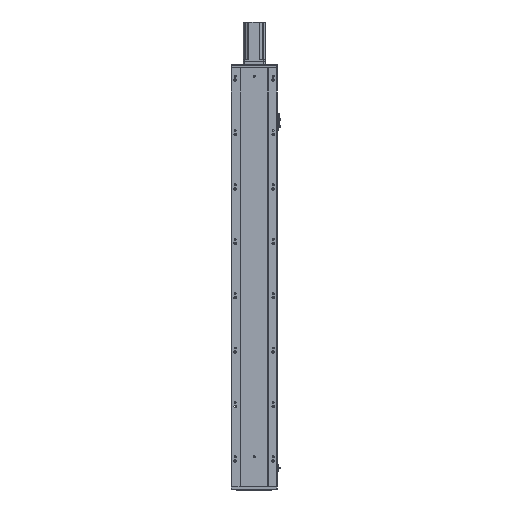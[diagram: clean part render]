
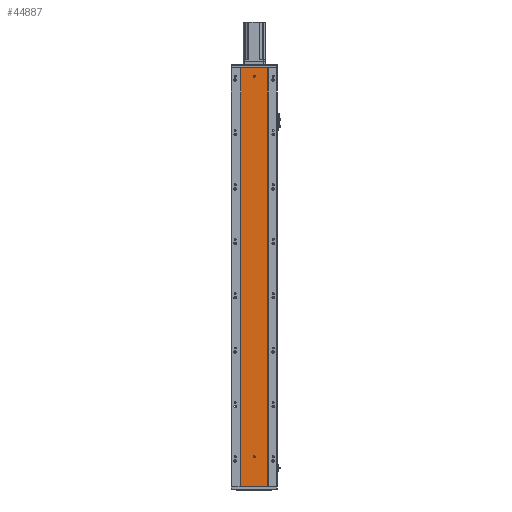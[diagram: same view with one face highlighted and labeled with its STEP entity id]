
A CAD part, front view. The second image highlights one B-rep face of the part: STEP entity #44887.
In plain terms, the highlighted planar face has unit normal (0, -1, 0).
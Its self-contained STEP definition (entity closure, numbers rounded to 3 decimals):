
#5892 = AXIS2_PLACEMENT_3D ( 'NONE', #32855, #32853, #32868 ) ;
#14651 = EDGE_LOOP ( 'NONE', ( #39105, #39159, #39103, #39140 ) ) ;
#14680 = EDGE_LOOP ( 'NONE', ( #39129, #39076 ) ) ;
#14747 = EDGE_LOOP ( 'NONE', ( #39138, #39078 ) ) ;
#18222 = AXIS2_PLACEMENT_3D ( 'NONE', #37425, #37431, #37421 ) ;
#18225 = AXIS2_PLACEMENT_3D ( 'NONE', #37523, #37555, #37527 ) ;
#19605 = CARTESIAN_POINT ( 'NONE',  ( 86.97, 79.476, 1026.667 ) ) ;
#19607 = CARTESIAN_POINT ( 'NONE',  ( 86.97, 79.476, 513.333 ) ) ;
#19609 = DIRECTION ( 'NONE',  ( 1., 0., 0. ) ) ;
#19636 = CARTESIAN_POINT ( 'NONE',  ( 86.97, 79.476, 1540. ) ) ;
#19641 = CARTESIAN_POINT ( 'NONE',  ( 0., 79.476, 1540. ) ) ;
#19643 = CARTESIAN_POINT ( 'NONE',  ( 86.97, 79.476, 0. ) ) ;
#19650 = CARTESIAN_POINT ( 'NONE',  ( 0., 79.476, 0. ) ) ;
#19672 = DIRECTION ( 'NONE',  ( 1., 0., 0. ) ) ;
#26767 = VERTEX_POINT ( 'NONE', #38818 ) ;
#26772 = VERTEX_POINT ( 'NONE', #38777 ) ;
#26852 = VERTEX_POINT ( 'NONE', #38785 ) ;
#27665 = EDGE_CURVE ( 'NONE', #26767, #26772, #47651, .T. ) ;
#27677 = EDGE_CURVE ( 'NONE', #39410, #26852, #47603, .T. ) ;
#30892 = FACE_BOUND ( 'NONE', #14747, .T. ) ;
#30930 = FACE_BOUND ( 'NONE', #14680, .T. ) ;
#30940 = FACE_OUTER_BOUND ( 'NONE', #14651, .T. ) ;
#32853 = DIRECTION ( 'NONE',  ( 0., 1., 0. ) ) ;
#32855 = CARTESIAN_POINT ( 'NONE',  ( 0., 79.476, 1540. ) ) ;
#32868 = DIRECTION ( 'NONE',  ( 0., 0., 1. ) ) ;
#32883 = PLANE ( 'NONE',  #5892 ) ;
#33384 = CIRCLE ( 'NONE', #18222, 4. ) ;
#37421 = DIRECTION ( 'NONE',  ( 0., 0., -1. ) ) ;
#37425 = CARTESIAN_POINT ( 'NONE',  ( 136.47, 79.476, 110. ) ) ;
#37431 = DIRECTION ( 'NONE',  ( 0., -1., 0. ) ) ;
#37523 = CARTESIAN_POINT ( 'NONE',  ( 136.47, 79.476, 1510. ) ) ;
#37527 = DIRECTION ( 'NONE',  ( 0., 0., -1. ) ) ;
#37535 = CARTESIAN_POINT ( 'NONE',  ( 185.97, 79.476, 513.333 ) ) ;
#37539 = CARTESIAN_POINT ( 'NONE',  ( 185.97, 79.476, 1540. ) ) ;
#37541 = CARTESIAN_POINT ( 'NONE',  ( 185.97, 79.476, 1026.667 ) ) ;
#37546 = CARTESIAN_POINT ( 'NONE',  ( 185.97, 79.476, 0. ) ) ;
#37555 = DIRECTION ( 'NONE',  ( 0., -1., 0. ) ) ;
#37588 = CIRCLE ( 'NONE', #18225, 4. ) ;
#37645 = VECTOR ( 'NONE', #19609, 1000. ) ;
#37672 = LINE ( 'NONE', #19641, #37645 ) ;
#37703 = LINE ( 'NONE', #19650, #37705 ) ;
#37705 = VECTOR ( 'NONE', #19672, 1000. ) ;
#38777 = CARTESIAN_POINT ( 'NONE',  ( 136.47, 79.476, 106. ) ) ;
#38785 = CARTESIAN_POINT ( 'NONE',  ( 136.47, 79.476, 1506. ) ) ;
#38818 = CARTESIAN_POINT ( 'NONE',  ( 136.47, 79.476, 114. ) ) ;
#39076 = ORIENTED_EDGE ( 'NONE', *, *, #27677, .F. ) ;
#39078 = ORIENTED_EDGE ( 'NONE', *, *, #27665, .F. ) ;
#39103 = ORIENTED_EDGE ( 'NONE', *, *, #49184, .F. ) ;
#39105 = ORIENTED_EDGE ( 'NONE', *, *, #49203, .T. ) ;
#39129 = ORIENTED_EDGE ( 'NONE', *, *, #49161, .F. ) ;
#39138 = ORIENTED_EDGE ( 'NONE', *, *, #49101, .F. ) ;
#39140 = ORIENTED_EDGE ( 'NONE', *, *, #49197, .T. ) ;
#39159 = ORIENTED_EDGE ( 'NONE', *, *, #49160, .F. ) ;
#39410 = VERTEX_POINT ( 'NONE', #44618 ) ;
#40723 = CARTESIAN_POINT ( 'NONE',  ( 185.97, 79.476, 0. ) ) ;
#40746 = CARTESIAN_POINT ( 'NONE',  ( 86.97, 79.476, 0. ) ) ;
#40761 = CARTESIAN_POINT ( 'NONE',  ( 86.97, 79.476, 1540. ) ) ;
#40790 = CARTESIAN_POINT ( 'NONE',  ( 185.97, 79.476, 1540. ) ) ;
#43361 = B_SPLINE_CURVE_WITH_KNOTS ( 'NONE', 3,
 ( #19636, #19605, #19607, #19643 ),
 .UNSPECIFIED., .F., .F.,
 ( 4, 4 ),
 ( 0., 1. ),
 .UNSPECIFIED. ) ;
#43377 = B_SPLINE_CURVE_WITH_KNOTS ( 'NONE', 3,
 ( #37539, #37541, #37535, #37546 ),
 .UNSPECIFIED., .F., .F.,
 ( 4, 4 ),
 ( 0., 1. ),
 .UNSPECIFIED. ) ;
#44618 = CARTESIAN_POINT ( 'NONE',  ( 136.47, 79.476, 1514. ) ) ;
#44887 = ADVANCED_FACE ( 'NONE', ( #30930, #30892, #30940 ), #32883, .F. ) ;
#45496 = CARTESIAN_POINT ( 'NONE',  ( 136.47, 79.476, 110. ) ) ;
#45497 = DIRECTION ( 'NONE',  ( 0., 0., -1. ) ) ;
#45498 = DIRECTION ( 'NONE',  ( 0., -1., 0. ) ) ;
#45535 = DIRECTION ( 'NONE',  ( 0., -1., 0. ) ) ;
#45545 = CARTESIAN_POINT ( 'NONE',  ( 136.47, 79.476, 1510. ) ) ;
#45558 = DIRECTION ( 'NONE',  ( 0., 0., -1. ) ) ;
#47603 = CIRCLE ( 'NONE', #52187, 4. ) ;
#47651 = CIRCLE ( 'NONE', #52193, 4. ) ;
#49101 = EDGE_CURVE ( 'NONE', #26772, #26767, #33384, .T. ) ;
#49160 = EDGE_CURVE ( 'NONE', #52775, #52758, #43377, .T. ) ;
#49161 = EDGE_CURVE ( 'NONE', #26852, #39410, #37588, .T. ) ;
#49184 = EDGE_CURVE ( 'NONE', #52771, #52775, #37672, .T. ) ;
#49197 = EDGE_CURVE ( 'NONE', #52771, #52754, #43361, .T. ) ;
#49203 = EDGE_CURVE ( 'NONE', #52754, #52758, #37703, .T. ) ;
#52187 = AXIS2_PLACEMENT_3D ( 'NONE', #45545, #45535, #45558 ) ;
#52193 = AXIS2_PLACEMENT_3D ( 'NONE', #45496, #45498, #45497 ) ;
#52754 = VERTEX_POINT ( 'NONE', #40746 ) ;
#52758 = VERTEX_POINT ( 'NONE', #40723 ) ;
#52771 = VERTEX_POINT ( 'NONE', #40761 ) ;
#52775 = VERTEX_POINT ( 'NONE', #40790 ) ;
